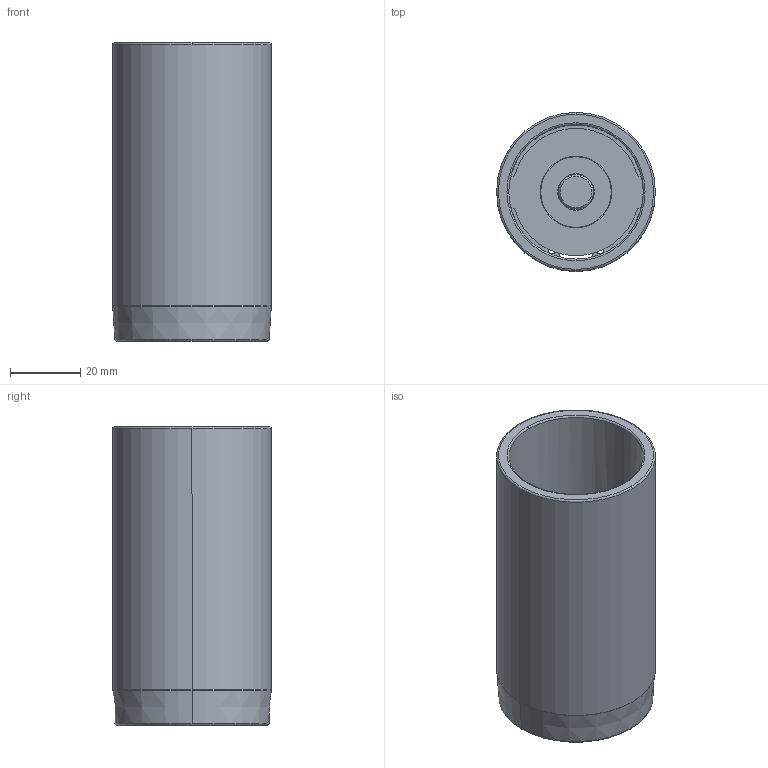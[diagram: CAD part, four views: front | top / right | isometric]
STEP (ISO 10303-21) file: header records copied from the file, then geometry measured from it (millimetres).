
FILE_DESCRIPTION((''),'2;1');
FILE_NAME('C12_038_085.stp','2009-01-28T11:29:05',(''),(''),'Mechanical Desktop 2009','Mechanical Desktop 2009',', , ');
FILE_SCHEMA(('CONFIG_CONTROL_DESIGN'));
Length unit declared in the file: millimetre
Products named in the file (2): Product; blmdl1
Assembly tree (1 placements, depth 2):
  Product
    blmdl1
Bounding box: 45.25 x 45.25 x 85 mm (x, y, z)
Volume: 43617.5 mm3; surface area: 29192.9 mm2
Topology: 5 solids, 5 shells, 79 faces, 200 edges, 134 vertices
Faces by surface type: cylinder 34, plane 29, torus 10, cone 6
Entity records: 2585 total; most frequent: DIRECTION 480, CARTESIAN_POINT 435, ORIENTED_EDGE 400, AXIS2_PLACEMENT_3D 203, EDGE_CURVE 200, VERTEX_POINT 134, CIRCLE 122, EDGE_LOOP 92
